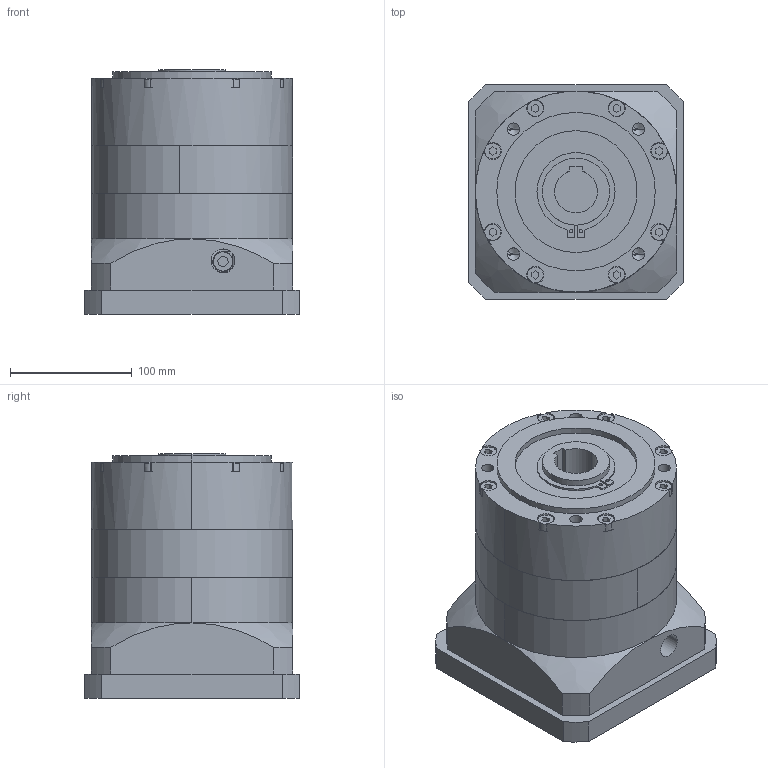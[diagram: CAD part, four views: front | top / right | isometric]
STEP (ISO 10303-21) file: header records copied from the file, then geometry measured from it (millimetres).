
FILE_DESCRIPTION (( 'STEP AP203' ), '1' );
FILE_NAME ('PBE160-L1-35-114.3-M12-200-LR86.STEP', '2022-07-23T09:25:19', ( 'Windows User' ), ( 'P R C' ), 'SwSTEP 2.0', 'SolidWorks 2016', '' );
FILE_SCHEMA (( 'CONFIG_CONTROL_DESIGN' ));
Length unit declared in the file: millimetre
Products named in the file (7): PBE160 κｳﾝﾈｦ_ﾒｻｼｶﾄﾚｳﾝﾈｦ; PBE160 奻屳唳; GB／T276-94深沟球轴承6011-2RZ; PBE160-帣釱-LR66; PBE160-蟀諉啣-114.3-M12-200_2; PBE160-L1-35-114.3-M12-200-LR86; GB／T70．1-2000内六角圆柱头螺钉M10×35
Assembly tree (7 placements, depth 2):
  PBE160-L1-35-114.3-M12-200-LR86
    GB／T70．1-2000内六角圆柱头螺钉M10×35  x2
    PBE160 κｳﾝﾈｦ_ﾒｻｼｶﾄﾚｳﾝﾈｦ
    PBE160 奻屳唳
    GB／T276-94深沟球轴承6011-2RZ
    PBE160-帣釱-LR66
    PBE160-蟀諉啣-114.3-M12-200_2
Bounding box: 176 x 176 x 201 mm (x, y, z)
Volume: 3813906.8 mm3; surface area: 435360.2 mm2
Topology: 7 solids, 15 shells, 1214 faces, 3276 edges, 2158 vertices
Faces by surface type: plane 642, bspline 312, cylinder 236, cone 24
Entity records: 50714 total; most frequent: CARTESIAN_POINT 21779, ORIENTED_EDGE 6392, DIRECTION 5019, EDGE_CURVE 3196, VERTEX_POINT 2118, AXIS2_PLACEMENT_3D 1695, LINE 1629, VECTOR 1629
